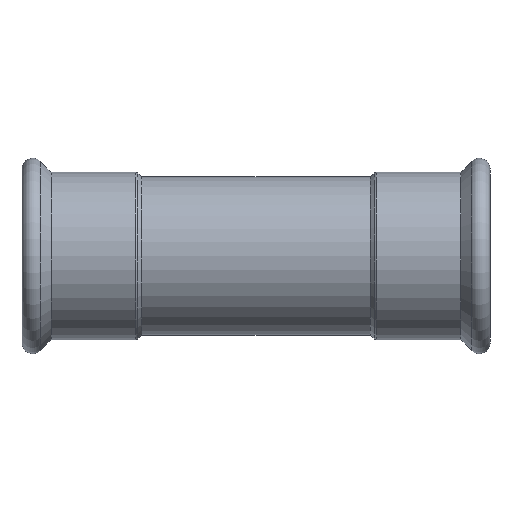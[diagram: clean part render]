
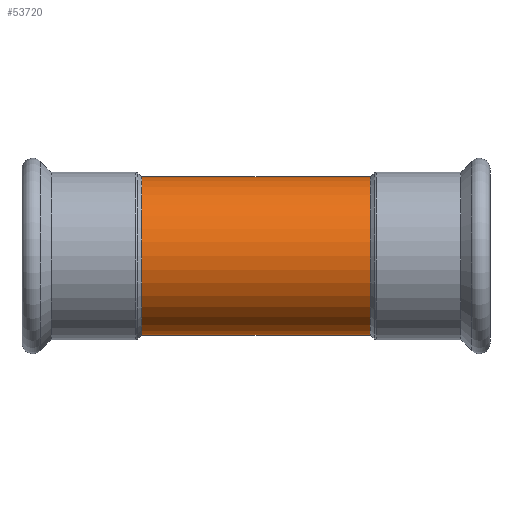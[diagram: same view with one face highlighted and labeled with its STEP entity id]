
A CAD part, top view. The second image highlights one B-rep face of the part: STEP entity #53720.
In plain terms, the highlighted cylindrical face has radius 44.45 mm (diameter 88.9 mm), a partial arc.
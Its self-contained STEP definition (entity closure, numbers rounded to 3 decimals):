
#13350=CARTESIAN_POINT('',(-255.291,-11.065,
0.));
#13360=DIRECTION('',(1.,0.,0.));
#13370=DIRECTION('',(0.,0.,1.));
#13380=AXIS2_PLACEMENT_3D('',#13350,#13360,#13370);
#13390=CYLINDRICAL_SURFACE('',#13380,44.45);
#19650=CARTESIAN_POINT('',(-255.291,-11.065,-44.45));
#19660=DIRECTION('',(1.,0.,0.));
#19670=VECTOR('',#19660,1.);
#19680=LINE('',#19650,#19670);
#19690=CARTESIAN_POINT('',(-383.291,-11.065,-44.45));
#19700=VERTEX_POINT('',#19690);
#19710=CARTESIAN_POINT('',(-255.291,-11.065,-44.45));
#19720=VERTEX_POINT('',#19710);
#19730=EDGE_CURVE('',#19700,#19720,#19680,.T.);
#19750=CARTESIAN_POINT('',(-255.291,-11.065,
0.));
#19760=DIRECTION('',(1.,0.,0.));
#19770=DIRECTION('',(0.,0.,-1.));
#19780=AXIS2_PLACEMENT_3D('',#19750,#19760,#19770);
#19790=CIRCLE('',#19780,44.45);
#19800=CARTESIAN_POINT('',(-255.291,-11.065,44.45));
#19810=VERTEX_POINT('',#19800);
#19840=CARTESIAN_POINT('',(-255.291,-11.065,44.45));
#19850=DIRECTION('',(1.,0.,0.));
#19860=VECTOR('',#19850,1.);
#19870=LINE('',#19840,#19860);
#19880=CARTESIAN_POINT('',(-383.291,-11.065,44.45));
#19890=VERTEX_POINT('',#19880);
#19900=EDGE_CURVE('',#19890,#19810,#19870,.T.);
#19920=CARTESIAN_POINT('',(-383.291,-11.065,
0.));
#19930=DIRECTION('',(1.,0.,0.));
#19940=DIRECTION('',(0.,0.,1.));
#19950=AXIS2_PLACEMENT_3D('',#19920,#19930,#19940);
#19960=CIRCLE('',#19950,44.45);
#53330=EDGE_CURVE('',#19890,#19700,#19960,.T.);
#53400=EDGE_CURVE('',#19810,#19720,#19790,.T.);
#53660=ORIENTED_EDGE('',*,*,#53330,.T.);
#53670=ORIENTED_EDGE('',*,*,#19900,.F.);
#53680=ORIENTED_EDGE('',*,*,#53400,.F.);
#53690=ORIENTED_EDGE('',*,*,#19730,.T.);
#53700=EDGE_LOOP('',(#53690,#53680,#53670,#53660));
#53710=FACE_OUTER_BOUND('',#53700,.T.);
#53720=ADVANCED_FACE('',(#53710),#13390,.T.);
